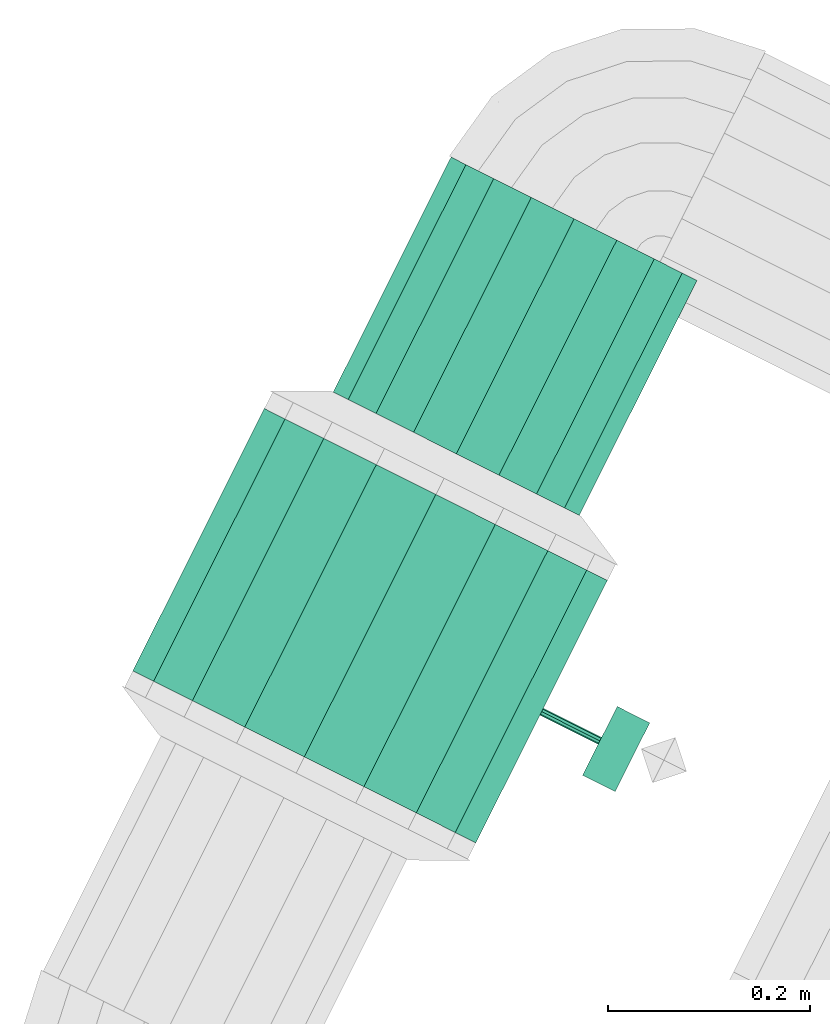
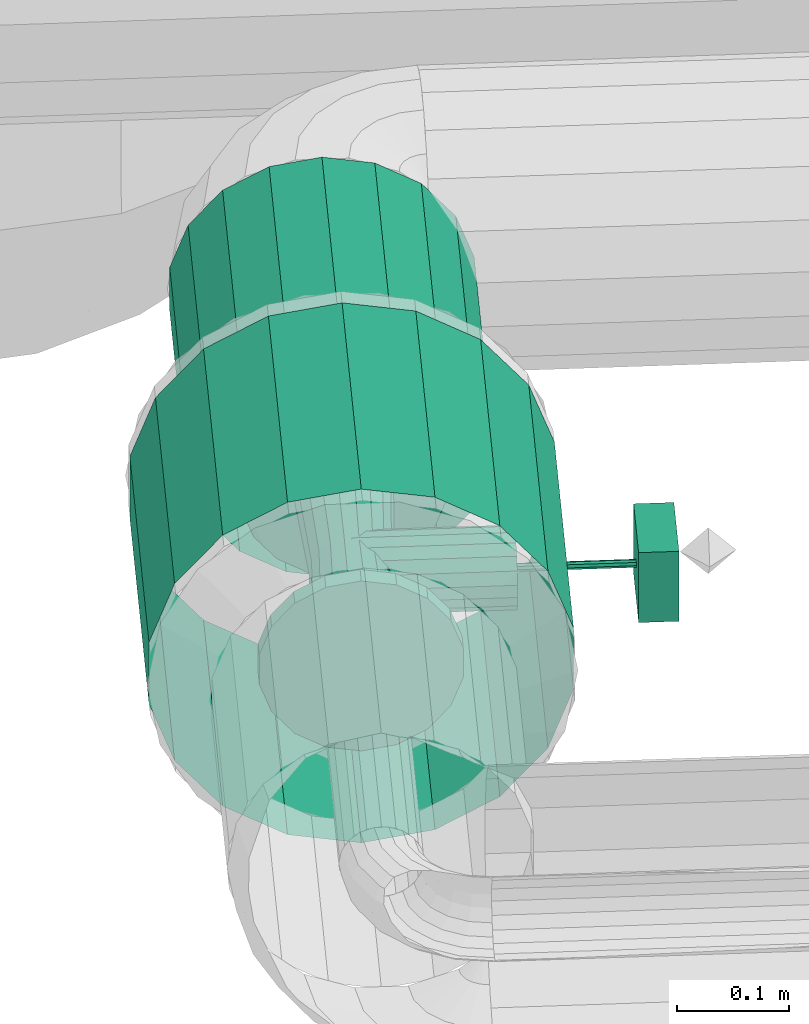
# One storey, part 41 of 152: 1 flow controller, 1 flow segment.
"""IFC2X3 building model written with IfcOpenShell, lengths in metres."""

from ifc_helpers import new_model, si_unit, derived_unit, direction, frame, origin, place, context, subcontext, project, spatial, face_set, surface_model, source, transform, mapped, material, type_object, type_shapes, element, save


model = new_model("IFC2X3")

# Units and contexts
model_context = context("Model", 3, precision=5.2338327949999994e-05, world=origin(), true_north=direction((0.0, 1.0)))
body_context = subcontext(model_context, "Body", "Model", "MODEL_VIEW")
ifc_project = project(units=[si_unit("LENGTHUNIT", "METRE"), si_unit("AREAUNIT", "SQUARE_METRE"), si_unit("VOLUMEUNIT", "CUBIC_METRE"), si_unit("MASSUNIT", "GRAM", prefix="KILO"), si_unit("PLANEANGLEUNIT", "RADIAN"), derived_unit("THERMALTRANSMITTANCEUNIT", [(si_unit("MASSUNIT", "GRAM", prefix="KILO"), 1), (si_unit("THERMODYNAMICTEMPERATUREUNIT", "KELVIN"), -1), (si_unit("TIMEUNIT", "SECOND"), -3)])], contexts=[model_context])

# Site, building, storey
site_placement = place(None, frame((0.0, 0.0, 0.0), z_axis=(0.0, 0.0, 1.0), x_axis=(0.8939966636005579, -0.4480736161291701, 0.0)))
site = spatial("IfcSite", under=ifc_project, at=site_placement, Name="Default", CompositionType="ELEMENT")
building_placement = place(site_placement, origin())
building = spatial("IfcBuilding", under=site, at=building_placement, CompositionType="ELEMENT")
storey_placement = place(building_placement, frame((0.0, 0.0, 2.7499999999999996)))
storey = spatial("IfcBuildingStorey", under=building, at=storey_placement, Name="1. Obergeschoss", CompositionType="ELEMENT", Elevation=2.7499999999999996)

# Flow controller
ifc_material = material(Name="IfcSurfaceStyle #1741")
distribution_element_type_1 = type_object("IfcDistributionElementType", Name="Ventil 258801:Ventil 258801", material=ifc_material)
shared_shape_1 = source(origin(), body_context, "Body", "SurfaceModel", [
    surface_model("IfcFaceBasedSurfaceModel", [(14.647269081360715, 6.972544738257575, 5.597590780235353), (14.647269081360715, 6.896444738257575, 5.597590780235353), (14.647269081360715, 6.896444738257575, 5.673690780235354), (14.647269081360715, 6.972544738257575, 5.673690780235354), (14.683269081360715, 6.896444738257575, 5.673690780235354), (14.683269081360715, 6.972544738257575, 5.673690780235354), (14.683269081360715, 6.896444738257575, 5.597590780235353), (14.683269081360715, 6.972544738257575, 5.597590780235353), (14.393269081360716, 7.079494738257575, 5.7281407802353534), (14.36163221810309, 7.079494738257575, 5.722562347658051), (14.36163221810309, 7.061494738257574, 5.722562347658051), (14.393269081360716, 7.061494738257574, 5.7281407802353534), (14.333811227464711, 7.079494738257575, 5.706499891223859), (14.333811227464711, 7.061494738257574, 5.706499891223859), (14.313161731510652, 7.079494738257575, 5.681890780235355), (14.313161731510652, 7.061494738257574, 5.681890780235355), (14.302174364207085, 7.079494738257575, 5.651703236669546), (14.302174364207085, 7.061494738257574, 5.651703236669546), (14.302174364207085, 7.079494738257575, 5.619578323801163), (14.302174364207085, 7.061494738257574, 5.619578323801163), (14.313161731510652, 7.079494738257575, 5.5893907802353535), (14.313161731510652, 7.061494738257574, 5.5893907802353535), (14.333811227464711, 7.079494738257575, 5.564781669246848), (14.333811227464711, 7.061494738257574, 5.564781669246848), (14.36163221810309, 7.079494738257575, 5.548719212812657), (14.36163221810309, 7.061494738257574, 5.548719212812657), (14.393269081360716, 7.079494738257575, 5.543140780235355), (14.393269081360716, 7.061494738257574, 5.543140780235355), (14.42490594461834, 7.079494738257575, 5.548719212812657), (14.42490594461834, 7.061494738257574, 5.548719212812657), (14.452726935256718, 7.079494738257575, 5.564781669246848), (14.452726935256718, 7.061494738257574, 5.564781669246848), (14.473376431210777, 7.079494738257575, 5.589390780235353), (14.473376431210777, 7.061494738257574, 5.589390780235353), (14.484363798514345, 7.079494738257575, 5.619578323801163), (14.484363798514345, 7.061494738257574, 5.619578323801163), (14.484363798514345, 7.079494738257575, 5.651703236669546), (14.484363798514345, 7.061494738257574, 5.651703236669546), (14.473376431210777, 7.079494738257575, 5.681890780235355), (14.473376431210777, 7.061494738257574, 5.681890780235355), (14.452726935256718, 7.079494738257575, 5.706499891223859), (14.452726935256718, 7.061494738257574, 5.706499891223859), (14.42490594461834, 7.079494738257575, 5.722562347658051), (14.42490594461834, 7.061494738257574, 5.722562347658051), (14.393269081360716, 7.079494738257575, 5.635640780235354), (14.393269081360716, 7.061494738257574, 5.635640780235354), (14.348269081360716, 7.061494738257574, 5.635640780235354), (14.350982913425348, 7.061494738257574, 5.620249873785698), (14.357513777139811, 6.934494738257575, 5.622626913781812), (14.355219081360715, 6.934494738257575, 5.635640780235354), (14.35879708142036, 7.061494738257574, 5.606715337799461), (14.36412109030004, 6.934494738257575, 5.611182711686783), (14.370769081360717, 7.061494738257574, 5.5966696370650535), (14.374244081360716, 6.934494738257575, 5.602688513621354), (14.385454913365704, 7.061494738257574, 5.591324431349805), (14.38666176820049, 6.934494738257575, 5.598168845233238), (14.401083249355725, 7.061494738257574, 5.591324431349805), (14.39987639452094, 6.934494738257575, 5.598168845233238), (14.415769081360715, 7.061494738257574, 5.596669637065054), (14.412294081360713, 6.934494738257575, 5.602688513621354), (14.427741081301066, 7.061494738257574, 5.606715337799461), (14.42241707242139, 6.934494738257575, 5.611182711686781), (14.435555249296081, 7.061494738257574, 5.620249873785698), (14.429024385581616, 6.934494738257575, 5.622626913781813), (14.438269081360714, 7.061494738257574, 5.635640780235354), (14.431319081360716, 6.934494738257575, 5.635640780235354), (14.435555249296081, 7.061494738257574, 5.651031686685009), (14.429024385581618, 6.934494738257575, 5.648654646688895), (14.427741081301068, 7.061494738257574, 5.664566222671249), (14.42241707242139, 6.934494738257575, 5.660098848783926), (14.415769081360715, 7.061494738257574, 5.674611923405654), (14.412294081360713, 6.934494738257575, 5.668593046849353), (14.401083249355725, 7.061494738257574, 5.679957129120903), (14.39987639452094, 6.934494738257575, 5.673112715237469), (14.385454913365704, 7.061494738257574, 5.679957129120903), (14.38666176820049, 6.934494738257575, 5.673112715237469), (14.370769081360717, 7.061494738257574, 5.674611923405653), (14.374244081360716, 6.934494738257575, 5.668593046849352), (14.358797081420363, 7.061494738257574, 5.664566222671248), (14.36412109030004, 6.934494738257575, 5.660098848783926), (14.350982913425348, 7.061494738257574, 5.651031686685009), (14.357513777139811, 6.934494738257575, 5.648654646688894), (14.35098291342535, 6.807494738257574, 5.620249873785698), (14.348269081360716, 6.807494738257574, 5.635640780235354), (14.35879708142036, 6.807494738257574, 5.606715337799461), (14.370769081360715, 6.807494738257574, 5.5966696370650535), (14.3854549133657, 6.807494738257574, 5.591324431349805), (14.401083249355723, 6.807494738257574, 5.591324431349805), (14.415769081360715, 6.807494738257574, 5.596669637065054), (14.427741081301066, 6.807494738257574, 5.606715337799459), (14.435555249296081, 6.807494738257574, 5.620249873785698), (14.438269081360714, 6.807494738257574, 5.635640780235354), (14.435555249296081, 6.807494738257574, 5.651031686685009), (14.427741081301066, 6.807494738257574, 5.664566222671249), (14.415769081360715, 6.807494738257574, 5.674611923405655), (14.401083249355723, 6.807494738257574, 5.679957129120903), (14.3854549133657, 6.807494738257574, 5.679957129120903), (14.370769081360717, 6.807494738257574, 5.674611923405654), (14.358797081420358, 6.807494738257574, 5.664566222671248), (14.350982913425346, 6.807494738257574, 5.651031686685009), (14.393269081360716, 6.807494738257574, 5.7281407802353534), (14.36163221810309, 6.807494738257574, 5.722562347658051), (14.36163221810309, 6.7894947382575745, 5.722562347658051), (14.393269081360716, 6.7894947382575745, 5.7281407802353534), (14.333811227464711, 6.807494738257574, 5.706499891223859), (14.333811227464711, 6.7894947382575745, 5.706499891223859), (14.313161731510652, 6.807494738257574, 5.681890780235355), (14.313161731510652, 6.7894947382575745, 5.681890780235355), (14.302174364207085, 6.807494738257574, 5.651703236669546), (14.302174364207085, 6.7894947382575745, 5.651703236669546), (14.302174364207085, 6.807494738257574, 5.619578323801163), (14.302174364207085, 6.7894947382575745, 5.619578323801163), (14.313161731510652, 6.807494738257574, 5.5893907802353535), (14.313161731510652, 6.7894947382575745, 5.5893907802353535), (14.333811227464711, 6.807494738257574, 5.564781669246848), (14.333811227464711, 6.7894947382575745, 5.564781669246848), (14.36163221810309, 6.807494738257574, 5.548719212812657), (14.36163221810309, 6.7894947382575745, 5.548719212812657), (14.393269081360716, 6.807494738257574, 5.543140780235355), (14.393269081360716, 6.7894947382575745, 5.543140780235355), (14.42490594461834, 6.807494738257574, 5.548719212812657), (14.42490594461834, 6.7894947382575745, 5.548719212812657), (14.452726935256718, 6.807494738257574, 5.564781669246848), (14.452726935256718, 6.7894947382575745, 5.564781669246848), (14.473376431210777, 6.807494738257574, 5.589390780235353), (14.473376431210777, 6.7894947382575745, 5.589390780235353), (14.484363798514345, 6.807494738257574, 5.619578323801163), (14.484363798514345, 6.7894947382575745, 5.619578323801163), (14.484363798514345, 6.807494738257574, 5.651703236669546), (14.484363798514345, 6.7894947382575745, 5.651703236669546), (14.473376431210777, 6.807494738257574, 5.681890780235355), (14.473376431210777, 6.7894947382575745, 5.681890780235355), (14.452726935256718, 6.807494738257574, 5.706499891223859), (14.452726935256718, 6.7894947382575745, 5.706499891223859), (14.42490594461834, 6.807494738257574, 5.722562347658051), (14.42490594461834, 6.7894947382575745, 5.722562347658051), (14.393269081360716, 6.807494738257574, 5.635640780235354), (14.393269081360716, 6.7894947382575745, 5.635640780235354), (14.393269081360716, 6.934494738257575, 5.673690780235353), (14.393269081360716, 6.921480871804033, 5.671396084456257), (14.539294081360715, 6.921480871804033, 5.671396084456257), (14.539294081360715, 6.934494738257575, 5.673690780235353), (14.393269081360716, 6.910036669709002, 5.66478877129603), (14.539294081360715, 6.910036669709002, 5.66478877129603), (14.393269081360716, 6.901542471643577, 5.654665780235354), (14.539294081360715, 6.901542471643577, 5.654665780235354), (14.393269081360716, 6.897022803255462, 5.6422480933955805), (14.539294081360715, 6.897022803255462, 5.6422480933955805), (14.393269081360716, 6.897022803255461, 5.629033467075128), (14.539294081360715, 6.897022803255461, 5.629033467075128), (14.393269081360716, 6.901542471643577, 5.616615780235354), (14.539294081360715, 6.901542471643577, 5.616615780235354), (14.393269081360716, 6.910036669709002, 5.606492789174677), (14.539294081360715, 6.910036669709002, 5.606492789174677), (14.393269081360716, 6.921480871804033, 5.5998854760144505), (14.539294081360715, 6.921480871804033, 5.5998854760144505), (14.393269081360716, 6.934494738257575, 5.597590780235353), (14.539294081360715, 6.934494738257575, 5.597590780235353), (14.393269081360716, 6.947508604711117, 5.5998854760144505), (14.539294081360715, 6.947508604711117, 5.5998854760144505), (14.393269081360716, 6.958952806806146, 5.606492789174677), (14.539294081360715, 6.958952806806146, 5.606492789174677), (14.393269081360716, 6.967447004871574, 5.616615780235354), (14.539294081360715, 6.967447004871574, 5.616615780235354), (14.393269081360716, 6.971966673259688, 5.629033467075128), (14.539294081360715, 6.971966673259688, 5.629033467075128), (14.393269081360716, 6.971966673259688, 5.6422480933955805), (14.539294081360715, 6.971966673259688, 5.6422480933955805), (14.393269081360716, 6.967447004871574, 5.654665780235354), (14.539294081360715, 6.967447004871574, 5.654665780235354), (14.393269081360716, 6.958952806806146, 5.66478877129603), (14.539294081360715, 6.958952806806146, 5.66478877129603), (14.393269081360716, 6.947508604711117, 5.671396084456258), (14.539294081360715, 6.947508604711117, 5.671396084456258), (14.393269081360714, 6.934494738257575, 5.635640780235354), (14.539294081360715, 6.934494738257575, 5.635640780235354), (14.539294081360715, 6.934494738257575, 5.639445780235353), (14.539294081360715, 6.9318041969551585, 5.638331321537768), (14.647269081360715, 6.9318041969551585, 5.638331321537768), (14.647269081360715, 6.934494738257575, 5.639445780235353), (14.539294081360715, 6.930689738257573, 5.635640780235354), (14.647269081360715, 6.930689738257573, 5.635640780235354), (14.539294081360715, 6.9318041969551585, 5.63295023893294), (14.647269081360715, 6.9318041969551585, 5.63295023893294), (14.539294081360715, 6.934494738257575, 5.631835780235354), (14.647269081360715, 6.934494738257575, 5.631835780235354), (14.539294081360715, 6.937185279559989, 5.63295023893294), (14.647269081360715, 6.937185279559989, 5.63295023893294), (14.539294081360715, 6.938299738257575, 5.635640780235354), (14.647269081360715, 6.938299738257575, 5.635640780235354), (14.539294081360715, 6.937185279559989, 5.638331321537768), (14.647269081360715, 6.937185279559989, 5.638331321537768), (14.647269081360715, 6.934494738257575, 5.635640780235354), (14.393269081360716, 7.079494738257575, 5.828140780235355), (14.327430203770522, 7.079494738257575, 5.816531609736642), (14.327430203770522, 6.7894947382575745, 5.816531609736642), (14.393269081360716, 6.7894947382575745, 5.828140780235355), (14.269532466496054, 7.079494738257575, 5.783104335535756), (14.269532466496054, 6.7894947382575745, 5.783104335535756), (14.22655919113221, 7.079494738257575, 5.731890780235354), (14.22655919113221, 6.7894947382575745, 5.731890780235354), (14.203693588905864, 7.079494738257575, 5.669068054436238), (14.203693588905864, 6.7894947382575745, 5.669068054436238), (14.203693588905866, 7.079494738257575, 5.602213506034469), (14.203693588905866, 6.7894947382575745, 5.602213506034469), (14.22655919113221, 7.079494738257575, 5.539390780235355), (14.22655919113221, 6.7894947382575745, 5.539390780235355), (14.269532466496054, 7.079494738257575, 5.488177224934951), (14.269532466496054, 6.7894947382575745, 5.488177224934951), (14.327430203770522, 7.079494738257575, 5.454749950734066), (14.327430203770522, 6.7894947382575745, 5.454749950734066), (14.393269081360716, 7.079494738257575, 5.443140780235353), (14.393269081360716, 6.7894947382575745, 5.443140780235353), (14.459107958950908, 7.079494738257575, 5.454749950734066), (14.459107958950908, 6.7894947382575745, 5.454749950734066), (14.517005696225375, 7.079494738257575, 5.488177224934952), (14.517005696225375, 6.7894947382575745, 5.488177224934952), (14.559978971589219, 7.079494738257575, 5.539390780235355), (14.559978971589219, 6.7894947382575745, 5.539390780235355), (14.582844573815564, 7.079494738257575, 5.602213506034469), (14.582844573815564, 6.7894947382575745, 5.602213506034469), (14.582844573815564, 7.079494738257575, 5.669068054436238), (14.582844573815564, 6.7894947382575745, 5.669068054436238), (14.559978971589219, 7.079494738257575, 5.731890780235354), (14.559978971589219, 6.7894947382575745, 5.731890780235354), (14.517005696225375, 7.079494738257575, 5.783104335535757), (14.517005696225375, 6.7894947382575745, 5.783104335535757), (14.459107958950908, 7.079494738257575, 5.816531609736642), (14.459107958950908, 6.7894947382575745, 5.816531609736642)], [face_set([[[0, 1, 2, 3]], [[3, 2, 4, 5]], [[5, 4, 6, 7]], [[7, 6, 1, 0]], [[0, 3, 5, 7]], [[6, 4, 2, 1]], [[8, 9, 10, 11]], [[9, 12, 13, 10]], [[12, 14, 15, 13]], [[14, 16, 17, 15]], [[16, 18, 19, 17]], [[18, 20, 21, 19]], [[20, 22, 23, 21]], [[22, 24, 25, 23]], [[24, 26, 27, 25]], [[26, 28, 29, 27]], [[28, 30, 31, 29]], [[30, 32, 33, 31]], [[32, 34, 35, 33]], [[34, 36, 37, 35]], [[36, 38, 39, 37]], [[38, 40, 41, 39]], [[40, 42, 43, 41]], [[42, 8, 11, 43]], [[44, 9, 8]], [[44, 12, 9]], [[44, 14, 12]], [[44, 16, 14]], [[44, 18, 16]], [[44, 20, 18]], [[44, 22, 20]], [[44, 24, 22]], [[44, 26, 24]], [[44, 28, 26]], [[44, 30, 28]], [[44, 32, 30]], [[44, 34, 32]], [[44, 36, 34]], [[44, 38, 36]], [[44, 40, 38]], [[44, 42, 40]], [[44, 8, 42]], [[45, 43, 11]], [[45, 41, 43]], [[45, 39, 41]], [[45, 37, 39]], [[45, 35, 37]], [[45, 33, 35]], [[45, 31, 33]], [[45, 29, 31]], [[45, 27, 29]], [[45, 25, 27]], [[45, 23, 25]], [[45, 21, 23]], [[45, 19, 21]], [[45, 17, 19]], [[45, 15, 17]], [[45, 13, 15]], [[45, 10, 13]], [[45, 11, 10]], [[46, 47, 48, 49]], [[47, 50, 51, 48]], [[50, 52, 53, 51]], [[52, 54, 55, 53]], [[54, 56, 57, 55]], [[56, 58, 59, 57]], [[58, 60, 61, 59]], [[60, 62, 63, 61]], [[62, 64, 65, 63]], [[64, 66, 67, 65]], [[66, 68, 69, 67]], [[68, 70, 71, 69]], [[70, 72, 73, 71]], [[72, 74, 75, 73]], [[74, 76, 77, 75]], [[76, 78, 79, 77]], [[78, 80, 81, 79]], [[80, 46, 49, 81]], [[49, 48, 82, 83]], [[48, 51, 84, 82]], [[51, 53, 85, 84]], [[53, 55, 86, 85]], [[55, 57, 87, 86]], [[57, 59, 88, 87]], [[59, 61, 89, 88]], [[61, 63, 90, 89]], [[63, 65, 91, 90]], [[65, 67, 92, 91]], [[67, 69, 93, 92]], [[69, 71, 94, 93]], [[71, 73, 95, 94]], [[73, 75, 96, 95]], [[75, 77, 97, 96]], [[77, 79, 98, 97]], [[79, 81, 99, 98]], [[81, 49, 83, 99]], [[100, 101, 102, 103]], [[101, 104, 105, 102]], [[104, 106, 107, 105]], [[106, 108, 109, 107]], [[108, 110, 111, 109]], [[110, 112, 113, 111]], [[112, 114, 115, 113]], [[114, 116, 117, 115]], [[116, 118, 119, 117]], [[118, 120, 121, 119]], [[120, 122, 123, 121]], [[122, 124, 125, 123]], [[124, 126, 127, 125]], [[126, 128, 129, 127]], [[128, 130, 131, 129]], [[130, 132, 133, 131]], [[132, 134, 135, 133]], [[134, 100, 103, 135]], [[136, 101, 100]], [[136, 104, 101]], [[136, 106, 104]], [[136, 108, 106]], [[136, 110, 108]], [[136, 112, 110]], [[136, 114, 112]], [[136, 116, 114]], [[136, 118, 116]], [[136, 120, 118]], [[136, 122, 120]], [[136, 124, 122]], [[136, 126, 124]], [[136, 128, 126]], [[136, 130, 128]], [[136, 132, 130]], [[136, 134, 132]], [[136, 100, 134]], [[137, 135, 103]], [[137, 133, 135]], [[137, 131, 133]], [[137, 129, 131]], [[137, 127, 129]], [[137, 125, 127]], [[137, 123, 125]], [[137, 121, 123]], [[137, 119, 121]], [[137, 117, 119]], [[137, 115, 117]], [[137, 113, 115]], [[137, 111, 113]], [[137, 109, 111]], [[137, 107, 109]], [[137, 105, 107]], [[137, 102, 105]], [[137, 103, 102]], [[138, 139, 140, 141]], [[139, 142, 143, 140]], [[142, 144, 145, 143]], [[144, 146, 147, 145]], [[146, 148, 149, 147]], [[148, 150, 151, 149]], [[150, 152, 153, 151]], [[152, 154, 155, 153]], [[154, 156, 157, 155]], [[156, 158, 159, 157]], [[158, 160, 161, 159]], [[160, 162, 163, 161]], [[162, 164, 165, 163]], [[164, 166, 167, 165]], [[166, 168, 169, 167]], [[168, 170, 171, 169]], [[170, 172, 173, 171]], [[172, 138, 141, 173]], [[174, 139, 138]], [[174, 142, 139]], [[174, 144, 142]], [[174, 146, 144]], [[174, 148, 146]], [[174, 150, 148]], [[174, 152, 150]], [[174, 154, 152]], [[174, 156, 154]], [[174, 158, 156]], [[174, 160, 158]], [[174, 162, 160]], [[174, 164, 162]], [[174, 166, 164]], [[174, 168, 166]], [[174, 170, 168]], [[174, 172, 170]], [[174, 138, 172]], [[175, 173, 141]], [[175, 171, 173]], [[175, 169, 171]], [[175, 167, 169]], [[175, 165, 167]], [[175, 163, 165]], [[175, 161, 163]], [[175, 159, 161]], [[175, 157, 159]], [[175, 155, 157]], [[175, 153, 155]], [[175, 151, 153]], [[175, 149, 151]], [[175, 147, 149]], [[175, 145, 147]], [[175, 143, 145]], [[175, 140, 143]], [[175, 141, 140]], [[176, 177, 178, 179]], [[177, 180, 181, 178]], [[180, 182, 183, 181]], [[182, 184, 185, 183]], [[184, 186, 187, 185]], [[186, 188, 189, 187]], [[188, 190, 191, 189]], [[190, 176, 179, 191]], [[192, 191, 179]], [[192, 189, 191]], [[192, 187, 189]], [[192, 185, 187]], [[192, 183, 185]], [[192, 181, 183]], [[192, 178, 181]], [[192, 179, 178]], [[193, 194, 195, 196]], [[194, 197, 198, 195]], [[197, 199, 200, 198]], [[199, 201, 202, 200]], [[201, 203, 204, 202]], [[203, 205, 206, 204]], [[205, 207, 208, 206]], [[207, 209, 210, 208]], [[209, 211, 212, 210]], [[211, 213, 214, 212]], [[213, 215, 216, 214]], [[215, 217, 218, 216]], [[217, 219, 220, 218]], [[219, 221, 222, 220]], [[221, 223, 224, 222]], [[223, 225, 226, 224]], [[225, 227, 228, 226]], [[227, 193, 196, 228]]])]),
])
type_shapes(distribution_element_type_1, [shared_shape_1])
flow_controller_placement = place(storey_placement, frame((0.0, 0.0, -2.7499999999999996)))
element("IfcFlowController", 1, at=flow_controller_placement, inside=storey, type_object=distribution_element_type_1, material=ifc_material, Name="Ventil", ObjectType="Ventil", context=body_context, shape_type="MappedRepresentation", body=[
    mapped(shared_shape_1, transform((0.0, 0.0, 0.0), scale=1.0)),
])

# Flow segment
distribution_element_type_2 = type_object("IfcDistributionElementType", Name="Stahlrohr nach DIN 2448 258824:Stahlrohr nach DIN 2448 258824", material=ifc_material)
shared_shape_2 = source(origin(), body_context, "Body", "SurfaceModel", [
    surface_model("IfcFaceBasedSurfaceModel", [(14.393269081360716, 7.384239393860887, 5.597590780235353), (14.406282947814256, 7.384239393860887, 5.5998854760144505), (14.406282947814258, 7.124494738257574, 5.5998854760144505), (14.393269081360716, 7.124494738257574, 5.597590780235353), (14.417727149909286, 7.384239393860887, 5.606492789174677), (14.417727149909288, 7.124494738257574, 5.606492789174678), (14.426221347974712, 7.384239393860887, 5.616615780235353), (14.426221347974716, 7.124494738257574, 5.616615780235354), (14.430741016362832, 7.384239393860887, 5.629033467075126), (14.430741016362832, 7.124494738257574, 5.629033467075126), (14.43074101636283, 7.384239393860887, 5.6422480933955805), (14.43074101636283, 7.124494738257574, 5.6422480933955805), (14.426221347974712, 7.384239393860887, 5.654665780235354), (14.426221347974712, 7.124494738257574, 5.654665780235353), (14.417727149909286, 7.384239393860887, 5.66478877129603), (14.417727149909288, 7.124494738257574, 5.664788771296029), (14.406282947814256, 7.384239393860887, 5.671396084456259), (14.406282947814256, 7.124494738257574, 5.671396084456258), (14.393269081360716, 7.384239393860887, 5.673690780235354), (14.393269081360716, 7.124494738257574, 5.673690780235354), (14.380255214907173, 7.384239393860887, 5.671396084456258), (14.380255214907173, 7.124494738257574, 5.671396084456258), (14.36881101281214, 7.384239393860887, 5.664788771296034), (14.368811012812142, 7.124494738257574, 5.664788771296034), (14.360316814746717, 7.384239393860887, 5.654665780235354), (14.360316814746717, 7.124494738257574, 5.654665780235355), (14.355797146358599, 7.384239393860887, 5.642248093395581), (14.355797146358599, 7.124494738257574, 5.642248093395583), (14.355797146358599, 7.384239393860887, 5.6290334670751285), (14.355797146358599, 7.124494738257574, 5.6290334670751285), (14.360316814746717, 7.384239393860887, 5.616615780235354), (14.360316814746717, 7.124494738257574, 5.616615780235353), (14.368811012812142, 7.384239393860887, 5.606492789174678), (14.368811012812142, 7.124494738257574, 5.606492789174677), (14.380255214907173, 7.384239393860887, 5.599885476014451), (14.380255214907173, 7.124494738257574, 5.599885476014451), (14.393269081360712, 7.384239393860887, 5.497590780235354), (14.44048496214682, 7.384239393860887, 5.505916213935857), (14.440484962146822, 7.124494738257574, 5.505916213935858), (14.393269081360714, 7.124494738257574, 5.497590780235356), (14.482005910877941, 7.384239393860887, 5.529888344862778), (14.482005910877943, 7.124494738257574, 5.529888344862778), (14.512823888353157, 7.384239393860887, 5.566615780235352), (14.512823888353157, 7.124494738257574, 5.566615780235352), (14.52922179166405, 7.384239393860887, 5.611668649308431), (14.52922179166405, 7.124494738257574, 5.611668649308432), (14.529221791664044, 7.384239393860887, 5.659612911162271), (14.529221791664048, 7.124494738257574, 5.659612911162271), (14.512823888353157, 7.384239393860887, 5.704665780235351), (14.512823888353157, 7.124494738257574, 5.704665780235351), (14.482005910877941, 7.384239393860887, 5.741393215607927), (14.482005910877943, 7.124494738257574, 5.741393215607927), (14.440484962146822, 7.384239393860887, 5.765365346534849), (14.440484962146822, 7.124494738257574, 5.765365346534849), (14.393269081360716, 7.384239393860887, 5.773690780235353), (14.393269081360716, 7.124494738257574, 5.773690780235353), (14.346053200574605, 7.384239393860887, 5.765365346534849), (14.346053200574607, 7.124494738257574, 5.765365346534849), (14.304532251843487, 7.384239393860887, 5.741393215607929), (14.304532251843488, 7.124494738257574, 5.741393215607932), (14.273714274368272, 7.384239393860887, 5.704665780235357), (14.273714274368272, 7.124494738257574, 5.704665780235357), (14.257316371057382, 7.384239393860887, 5.659612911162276), (14.257316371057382, 7.124494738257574, 5.659612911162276), (14.257316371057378, 7.384239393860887, 5.611668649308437), (14.25731637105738, 7.124494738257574, 5.611668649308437), (14.27371427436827, 7.384239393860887, 5.566615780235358), (14.27371427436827, 7.124494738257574, 5.566615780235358), (14.304532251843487, 7.384239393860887, 5.529888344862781), (14.304532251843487, 7.124494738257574, 5.529888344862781), (14.346053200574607, 7.384239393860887, 5.505916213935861), (14.346053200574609, 7.124494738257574, 5.505916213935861)], [face_set([[[0, 1, 2, 3]], [[1, 4, 5, 2]], [[4, 6, 7, 5]], [[6, 8, 9, 7]], [[8, 10, 11, 9]], [[10, 12, 13, 11]], [[12, 14, 15, 13]], [[14, 16, 17, 15]], [[16, 18, 19, 17]], [[18, 20, 21, 19]], [[20, 22, 23, 21]], [[22, 24, 25, 23]], [[24, 26, 27, 25]], [[26, 28, 29, 27]], [[28, 30, 31, 29]], [[30, 32, 33, 31]], [[32, 34, 35, 33]], [[34, 0, 3, 35]], [[36, 37, 38, 39]], [[37, 40, 41, 38]], [[40, 42, 43, 41]], [[42, 44, 45, 43]], [[44, 46, 47, 45]], [[46, 48, 49, 47]], [[48, 50, 51, 49]], [[50, 52, 53, 51]], [[52, 54, 55, 53]], [[54, 56, 57, 55]], [[56, 58, 59, 57]], [[58, 60, 61, 59]], [[60, 62, 63, 61]], [[62, 64, 65, 63]], [[64, 66, 67, 65]], [[66, 68, 69, 67]], [[68, 70, 71, 69]], [[70, 36, 39, 71]]])]),
])
type_shapes(distribution_element_type_2, [shared_shape_2])
flow_segment_placement = place(storey_placement, frame((0.0, 0.0, -2.7499999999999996)))
element("IfcFlowSegment", 2, at=flow_segment_placement, inside=storey, type_object=distribution_element_type_2, material=ifc_material, Name="Stahlrohr nach DIN 2448", ObjectType="Stahlrohr nach DIN 2448", context=body_context, shape_type="MappedRepresentation", body=[
    mapped(shared_shape_2, transform((0.0, 0.0, 0.0), scale=1.0)),
])

save(model, "model.ifc")
